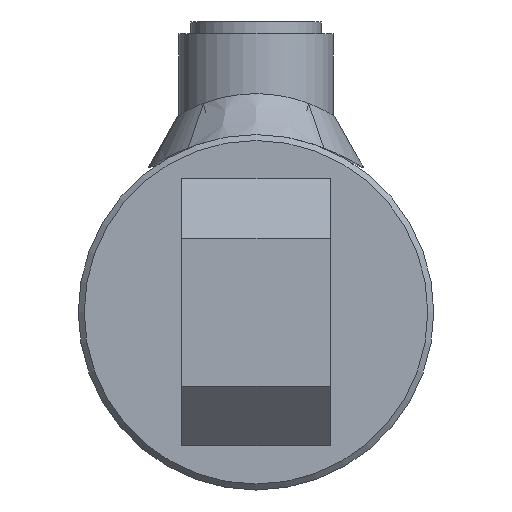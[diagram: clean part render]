
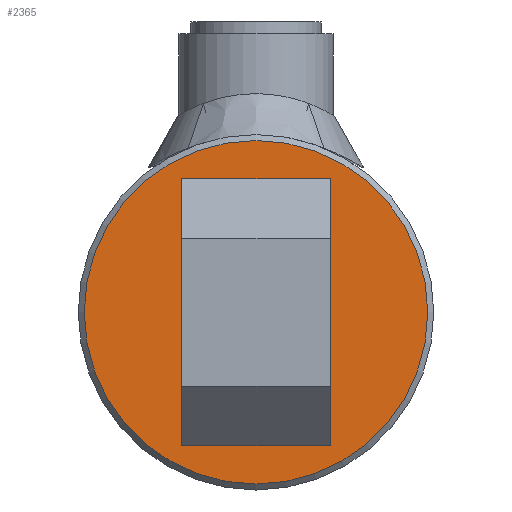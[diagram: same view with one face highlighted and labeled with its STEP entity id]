
A CAD part, left-side view. The second image highlights one B-rep face of the part: STEP entity #2365.
In plain terms, the highlighted planar face has unit normal (-1, 0, 0).
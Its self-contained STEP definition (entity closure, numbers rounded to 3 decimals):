
#2365 = ADVANCED_FACE( '', ( #5652 ), #5653, .T. );
#5652 = FACE_OUTER_BOUND( '', #7192, .T. );
#5653 = PLANE( '', #7193 );
#7192 = EDGE_LOOP( '', ( #7856 ) );
#7193 = AXIS2_PLACEMENT_3D( '', #7857, #7858, #7859 );
#7856 = ORIENTED_EDGE( '', *, *, #8919, .T. );
#7857 = CARTESIAN_POINT( '', ( -10., 0., 0. ) );
#7858 = DIRECTION( '', ( -1., 0., 0. ) );
#7859 = DIRECTION( '', ( 0., -1., 0. ) );
#8919 = EDGE_CURVE( '', #10813, #10813, #10814, .T. );
#10813 = VERTEX_POINT( '', #11566 );
#10814 = CIRCLE( '', #11567, 29. );
#11566 = CARTESIAN_POINT( '', ( -10., -29., 0. ) );
#11567 = AXIS2_PLACEMENT_3D( '', #11782, #11783, #11784 );
#11782 = CARTESIAN_POINT( '', ( -10., 0., 0. ) );
#11783 = DIRECTION( '', ( -1., 0., 0. ) );
#11784 = DIRECTION( '', ( 0., -1., 0. ) );
